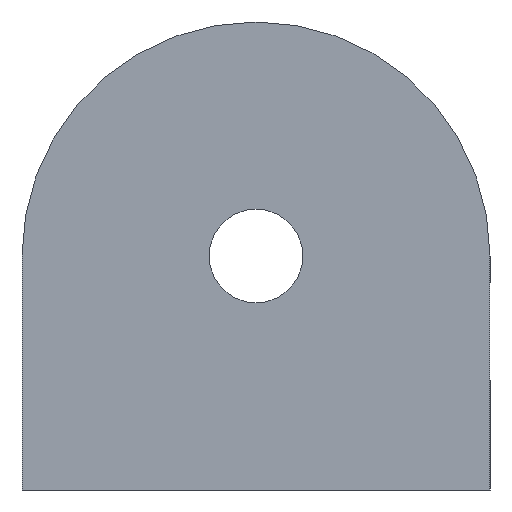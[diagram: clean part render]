
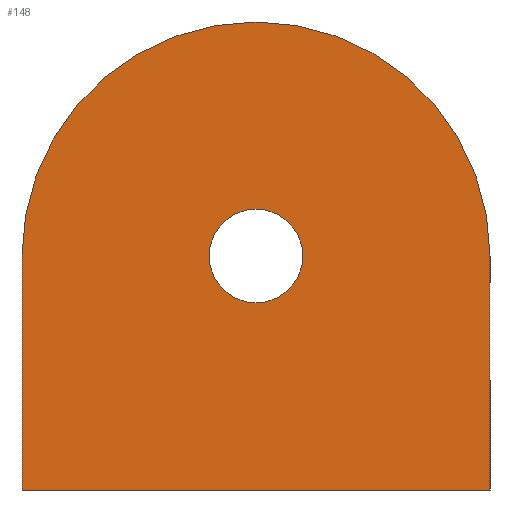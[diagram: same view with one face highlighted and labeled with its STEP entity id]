
A CAD part, front view. The second image highlights one B-rep face of the part: STEP entity #148.
In plain terms, the highlighted planar face has unit normal (0, -1, 0).
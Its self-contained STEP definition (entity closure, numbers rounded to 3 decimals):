
#1 = CIRCLE ( 'NONE', #224, 15. ) ;
#12 = DIRECTION ( 'NONE',  ( 0., 0., 1. ) ) ;
#18 = VECTOR ( 'NONE', #122, 1000. ) ;
#65 = EDGE_CURVE ( 'NONE', #583, #701, #131, .T. ) ;
#83 = DIRECTION ( 'NONE',  ( 0., 0., -1. ) ) ;
#84 = AXIS2_PLACEMENT_3D ( 'NONE', #656, #229, #719 ) ;
#89 = CARTESIAN_POINT ( 'NONE',  ( -12.923, -16.461, 0. ) ) ;
#119 = CARTESIAN_POINT ( 'NONE',  ( -12.923, -16.461, 15. ) ) ;
#122 = DIRECTION ( 'NONE',  ( 0., 0., -1. ) ) ;
#131 = CIRCLE ( 'NONE', #235, 3. ) ;
#139 = VERTEX_POINT ( 'NONE', #422 ) ;
#148 = ADVANCED_FACE ( 'NONE', ( #257, #790 ), #378, .F. ) ;
#173 = VECTOR ( 'NONE', #527, 1000. ) ;
#183 = ORIENTED_EDGE ( 'NONE', *, *, #745, .T. ) ;
#193 = ORIENTED_EDGE ( 'NONE', *, *, #65, .F. ) ;
#194 = VECTOR ( 'NONE', #83, 1000. ) ;
#203 = LINE ( 'NONE', #340, #18 ) ;
#219 = ORIENTED_EDGE ( 'NONE', *, *, #732, .T. ) ;
#224 = AXIS2_PLACEMENT_3D ( 'NONE', #877, #446, #12 ) ;
#229 = DIRECTION ( 'NONE',  ( 0., -1., 0. ) ) ;
#231 = EDGE_LOOP ( 'NONE', ( #697, #193 ) ) ;
#235 = AXIS2_PLACEMENT_3D ( 'NONE', #810, #802, #796 ) ;
#257 = FACE_BOUND ( 'NONE', #231, .T. ) ;
#261 = CARTESIAN_POINT ( 'NONE',  ( -12.923, -16.461, 0. ) ) ;
#270 = CARTESIAN_POINT ( 'NONE',  ( 2.077, -16.461, 12. ) ) ;
#289 = DIRECTION ( 'NONE',  ( 0., 0., 1. ) ) ;
#294 = CARTESIAN_POINT ( 'NONE',  ( 17.077, -16.461, 7. ) ) ;
#300 = DIRECTION ( 'NONE',  ( 0., 1., 0. ) ) ;
#340 = CARTESIAN_POINT ( 'NONE',  ( -12.923, -16.461, 7. ) ) ;
#370 = VERTEX_POINT ( 'NONE', #119 ) ;
#378 = PLANE ( 'NONE',  #755 ) ;
#386 = CIRCLE ( 'NONE', #84, 15. ) ;
#406 = CARTESIAN_POINT ( 'NONE',  ( 2.077, -16.461, 30. ) ) ;
#413 = LINE ( 'NONE', #294, #194 ) ;
#421 = VERTEX_POINT ( 'NONE', #261 ) ;
#422 = CARTESIAN_POINT ( 'NONE',  ( 17.077, -16.461, 0. ) ) ;
#446 = DIRECTION ( 'NONE',  ( 0., -1., 0. ) ) ;
#447 = ORIENTED_EDGE ( 'NONE', *, *, #765, .T. ) ;
#456 = VERTEX_POINT ( 'NONE', #406 ) ;
#466 = EDGE_CURVE ( 'NONE', #370, #421, #203, .T. ) ;
#488 = AXIS2_PLACEMENT_3D ( 'NONE', #940, #866, #863 ) ;
#515 = ORIENTED_EDGE ( 'NONE', *, *, #708, .F. ) ;
#527 = DIRECTION ( 'NONE',  ( 1., 0., 0. ) ) ;
#561 = LINE ( 'NONE', #89, #173 ) ;
#581 = VERTEX_POINT ( 'NONE', #632 ) ;
#583 = VERTEX_POINT ( 'NONE', #920 ) ;
#590 = CARTESIAN_POINT ( 'NONE',  ( -12.923, -16.461, 7. ) ) ;
#632 = CARTESIAN_POINT ( 'NONE',  ( 17.077, -16.461, 15. ) ) ;
#656 = CARTESIAN_POINT ( 'NONE',  ( 2.077, -16.461, 15. ) ) ;
#667 = EDGE_CURVE ( 'NONE', #701, #583, #860, .T. ) ;
#697 = ORIENTED_EDGE ( 'NONE', *, *, #667, .F. ) ;
#701 = VERTEX_POINT ( 'NONE', #270 ) ;
#708 = EDGE_CURVE ( 'NONE', #581, #139, #413, .T. ) ;
#719 = DIRECTION ( 'NONE',  ( 0., 0., 1. ) ) ;
#732 = EDGE_CURVE ( 'NONE', #581, #456, #386, .T. ) ;
#745 = EDGE_CURVE ( 'NONE', #456, #370, #1, .T. ) ;
#755 = AXIS2_PLACEMENT_3D ( 'NONE', #590, #300, #289 ) ;
#765 = EDGE_CURVE ( 'NONE', #421, #139, #561, .T. ) ;
#790 = FACE_OUTER_BOUND ( 'NONE', #872, .T. ) ;
#796 = DIRECTION ( 'NONE',  ( 0., 0., -1. ) ) ;
#802 = DIRECTION ( 'NONE',  ( 0., -1., 0. ) ) ;
#810 = CARTESIAN_POINT ( 'NONE',  ( 2.077, -16.461, 15. ) ) ;
#860 = CIRCLE ( 'NONE', #488, 3. ) ;
#863 = DIRECTION ( 'NONE',  ( 0., 0., -1. ) ) ;
#866 = DIRECTION ( 'NONE',  ( 0., -1., 0. ) ) ;
#872 = EDGE_LOOP ( 'NONE', ( #515, #219, #183, #931, #447 ) ) ;
#877 = CARTESIAN_POINT ( 'NONE',  ( 2.077, -16.461, 15. ) ) ;
#920 = CARTESIAN_POINT ( 'NONE',  ( 2.077, -16.461, 18. ) ) ;
#931 = ORIENTED_EDGE ( 'NONE', *, *, #466, .T. ) ;
#940 = CARTESIAN_POINT ( 'NONE',  ( 2.077, -16.461, 15. ) ) ;
